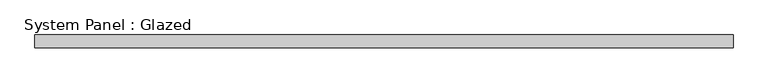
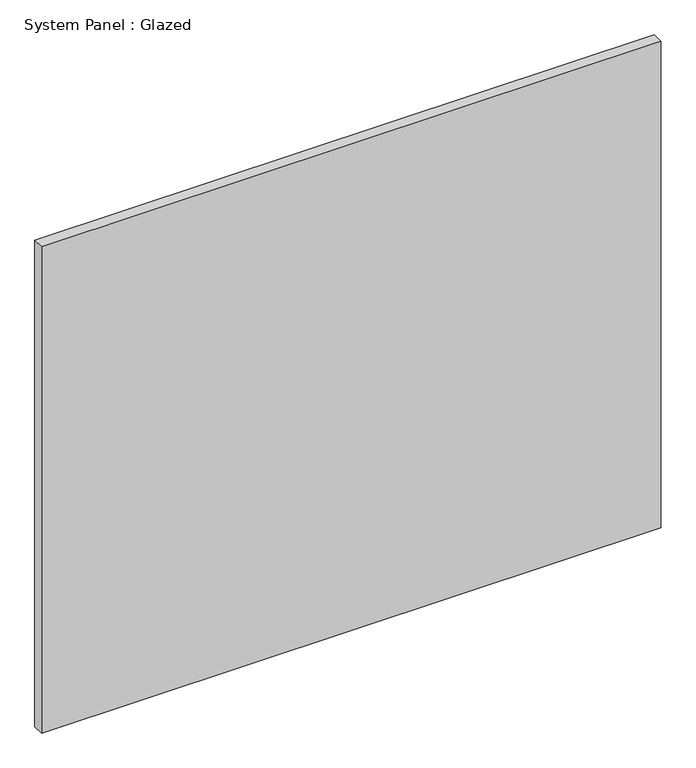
"""IFC4 building model written with IfcOpenShell, lengths in millimetres: plate geometry, System Panel : Glazed."""

from ifc_helpers import new_model, si_unit, origin, origin_with_axes, place, context, project, spatial, polyline, outline, extrude, source, transform, mapped, element, save


def system_panel_glazed_1b4b6858(model_context):
    return source(origin(), model_context, "Body", "SweptSolid", [
        extrude(outline(polyline([(685.4060559, 19.05), (-685.4060559, 19.05), (-685.4060559, 44.45), (685.4060559, 44.45), (685.4060559, 19.05)])), origin_with_axes(), (0.0, 0.0, 1.0), 1137.4164677),
    ])


if __name__ == "__main__":
    model = new_model("IFC4")
    model_context = context("Model", 3, world=origin())
    ifc_project = project(units=[si_unit("LENGTHUNIT", "METRE", prefix="MILLI")], contexts=[model_context])
    site = spatial("IfcSite", under=ifc_project)
    building = spatial("IfcBuilding", under=site)
    placement = place(None, origin())
    system_panel_glazed_shape = system_panel_glazed_1b4b6858(model_context)
    element("IfcPlate", 1, ObjectType="System Panel : Glazed", at=placement, inside=building, context=model_context, shape_type="MappedRepresentation", body=[
        mapped(system_panel_glazed_shape, transform((0.0, 0.0, 0.0), x_axis=(1.0, 0.0, 0.0), y_axis=(0.0, 1.0, 0.0), z_axis=(0.0, 0.0, 1.0))),
    ])
    save(model, "model.ifc")
